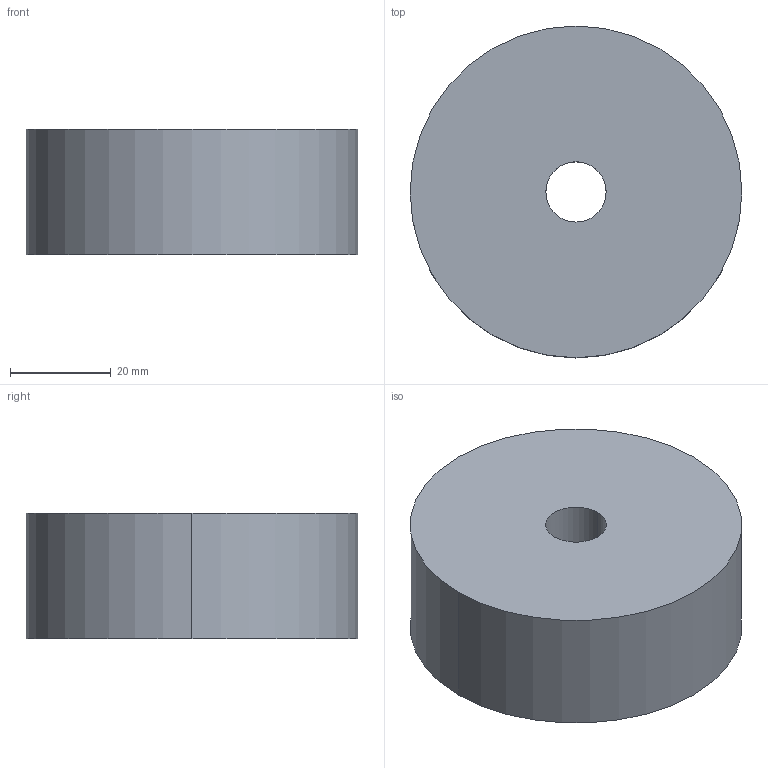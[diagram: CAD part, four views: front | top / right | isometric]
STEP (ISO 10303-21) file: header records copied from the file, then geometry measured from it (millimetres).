
FILE_DESCRIPTION (( 'STEP AP203' ), '1' );
FILE_NAME ('03_Banh_xe_THAM_KHAO.STEP', '2026-11-13T15:49:38', ( '' ), ( '' ), 'SwSTEP 2.0', 'SolidWorks 2026', '' );
FILE_SCHEMA (( 'CONFIG_CONTROL_DESIGN' ));
Length unit declared in the file: metre
Products named in the file (1): 03_Banh_xe_THAM_KHAO
Bounding box: 66 x 66 x 25 mm (x, y, z)
Volume: 82702.4 mm3; surface area: 12742.3 mm2
Topology: 1 solids, 1 shells, 6 faces, 12 edges, 8 vertices
Faces by surface type: cylinder 4, plane 2
Entity records: 245 total; most frequent: DIRECTION 34, CARTESIAN_POINT 27, ORIENTED_EDGE 24, AXIS2_PLACEMENT_3D 15, EDGE_CURVE 12, EDGE_LOOP 8, CIRCLE 8, PERSON_AND_ORGANIZATION 8
